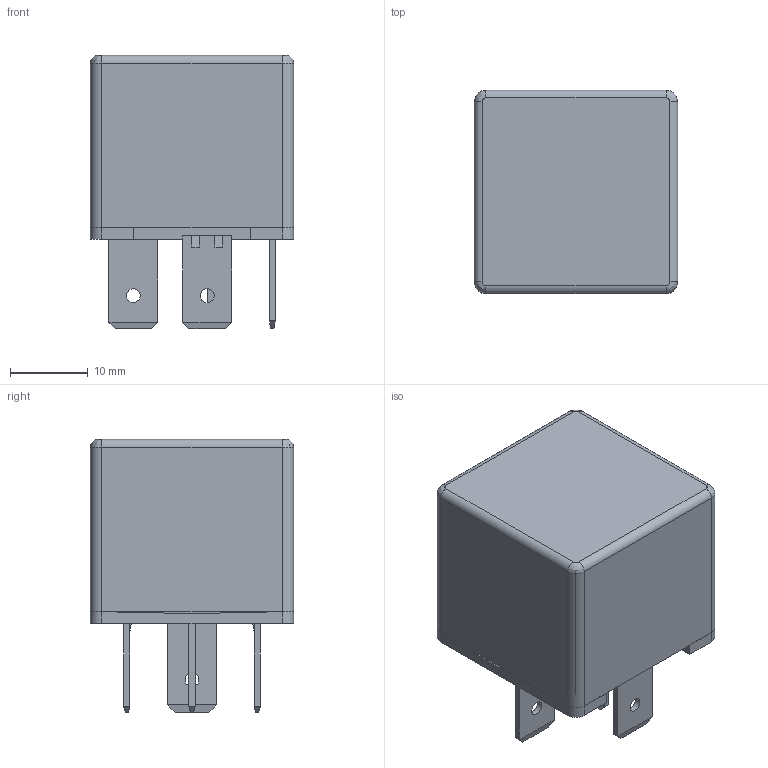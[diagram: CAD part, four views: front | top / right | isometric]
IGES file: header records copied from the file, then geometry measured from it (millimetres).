
Global section: file name: Filename.iges; native system: Open CASCADE 7.3; preprocessor: Open CASCADE IGES processor 7.3; date: 20200625.092254; units: millimetre
Bounding box: 26.2 x 26.2 x 35.2 mm (x, y, z)
Surface area: 9182.3 mm2 (no closed solid volume)
Topology: 0 solids, 0 shells, 464 faces, 7110 edges, 26030 vertices
Faces by surface type: plane 401, revolution 58, bspline 4, extrusion 1
